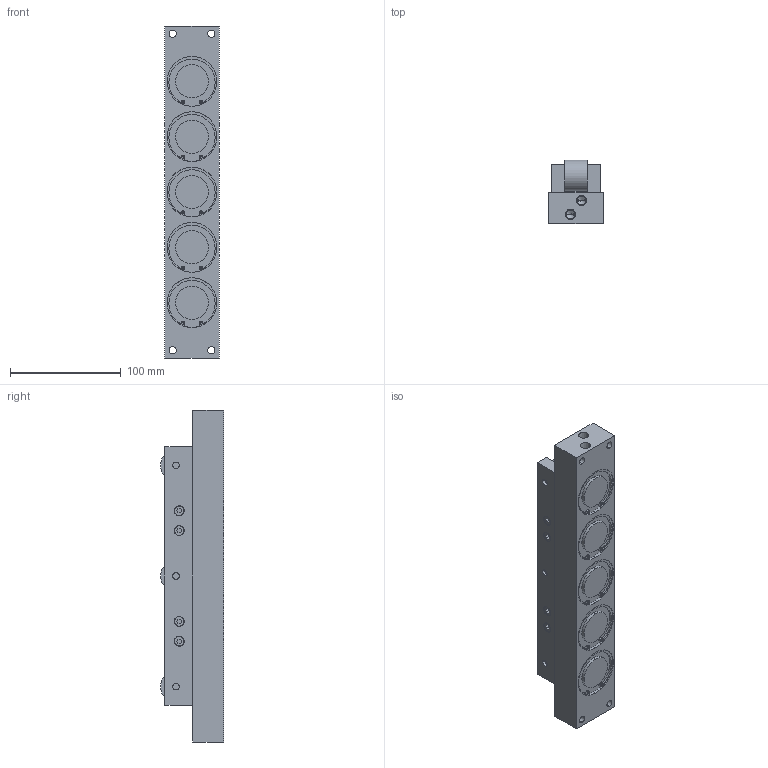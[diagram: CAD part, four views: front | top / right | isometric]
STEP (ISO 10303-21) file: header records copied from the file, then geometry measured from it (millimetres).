
FILE_DESCRIPTION (( 'STEP AP203' ), '1' );
FILE_NAME ('PVLR55SL-3.STEP', '2021-10-14T04:03:57', ( '' ), ( '' ), 'SwSTEP 2.0', 'SolidWorks 2013', '' );
FILE_SCHEMA (( 'CONFIG_CONTROL_DESIGN' ));
Length unit declared in the file: millimetre
Products named in the file (1): PVLR55SL-3
Bounding box: 49 x 57 x 300 mm (x, y, z)
Volume: 589484.7 mm3; surface area: 116463 mm2
Topology: 2 solids, 2 shells, 393 faces, 961 edges, 624 vertices
Faces by surface type: plane 203, cylinder 182, cone 8
Entity records: 11780 total; most frequent: DIRECTION 2167, CARTESIAN_POINT 1975, ORIENTED_EDGE 1914, EDGE_CURVE 957, AXIS2_PLACEMENT_3D 816, VERTEX_POINT 624, VECTOR 535, LINE 535
